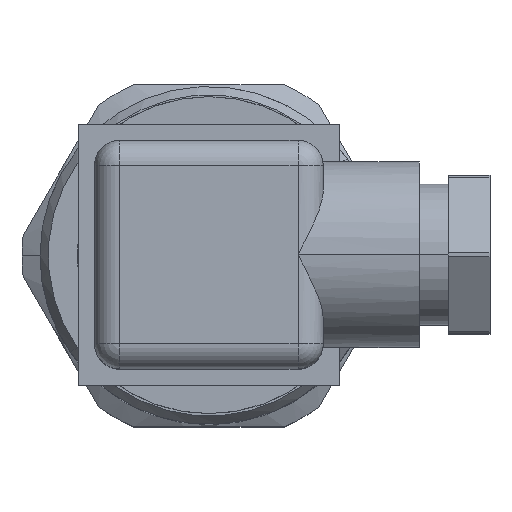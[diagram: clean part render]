
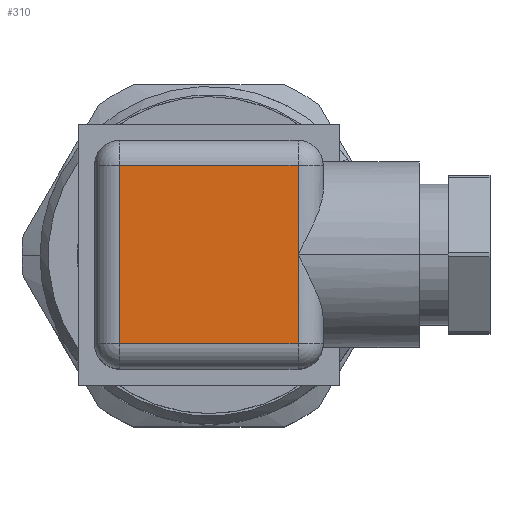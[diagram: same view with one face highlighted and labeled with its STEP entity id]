
A CAD part, top view. The second image highlights one B-rep face of the part: STEP entity #310.
In plain terms, the highlighted planar face has unit normal (0, 0, 1).
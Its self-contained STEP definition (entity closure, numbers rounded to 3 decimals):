
#310=ADVANCED_FACE('',(#660),#661,.T.);
#660=FACE_OUTER_BOUND('',#1040,.T.);
#661=PLANE('',#1041);
#1040=EDGE_LOOP('',(#1866,#1867,#1868,#1869,#1870));
#1041=AXIS2_PLACEMENT_3D('',#1871,#1872,#1873);
#1866=ORIENTED_EDGE('',*,*,#2505,.T.);
#1867=ORIENTED_EDGE('',*,*,#2498,.T.);
#1868=ORIENTED_EDGE('',*,*,#2484,.T.);
#1869=ORIENTED_EDGE('',*,*,#2482,.T.);
#1870=ORIENTED_EDGE('',*,*,#2512,.T.);
#1871=CARTESIAN_POINT('',(0.0,0.0,50.9));
#1872=DIRECTION('',(0.0,0.0,1.0));
#1873=DIRECTION('',(-1.0,0.,0.0));
#2482=EDGE_CURVE('',#2665,#3014,#3016,.T.);
#2484=EDGE_CURVE('',#3018,#2665,#3019,.T.);
#2498=EDGE_CURVE('',#3038,#3018,#3039,.T.);
#2505=EDGE_CURVE('',#3048,#3038,#3049,.T.);
#2512=EDGE_CURVE('',#3014,#3048,#3058,.T.);
#2665=VERTEX_POINT('',#3267);
#3014=VERTEX_POINT('',#3853);
#3016=LINE('',#3855,#3856);
#3018=VERTEX_POINT('',#3858);
#3019=LINE('',#3859,#3860);
#3038=VERTEX_POINT('',#3885);
#3039=LINE('',#3886,#3887);
#3048=VERTEX_POINT('',#3897);
#3049=LINE('',#3898,#3899);
#3058=LINE('',#3909,#3910);
#3267=CARTESIAN_POINT('',(10.688,0.,50.9));
#3853=CARTESIAN_POINT('',(10.688,10.688,50.9));
#3855=CARTESIAN_POINT('',(10.688,0.,50.9));
#3856=VECTOR('',#4519,1.0);
#3858=CARTESIAN_POINT('',(10.688,-10.688,50.9));
#3859=CARTESIAN_POINT('',(10.688,0.,50.9));
#3860=VECTOR('',#4520,1.0);
#3885=CARTESIAN_POINT('',(-10.688,-10.688,50.9));
#3886=CARTESIAN_POINT('',(0.,-10.688,50.9));
#3887=VECTOR('',#4536,1.0);
#3897=CARTESIAN_POINT('',(-10.688,10.688,50.9));
#3898=CARTESIAN_POINT('',(-10.688,0.,50.9));
#3899=VECTOR('',#4547,1.0);
#3909=CARTESIAN_POINT('',(0.,10.688,50.9));
#3910=VECTOR('',#4558,1.0);
#4519=DIRECTION('',(0.,1.0,0.0));
#4520=DIRECTION('',(0.,1.0,0.0));
#4536=DIRECTION('',(1.0,0.,0.0));
#4547=DIRECTION('',(0.,-1.0,0.0));
#4558=DIRECTION('',(-1.0,0.,0.0));
